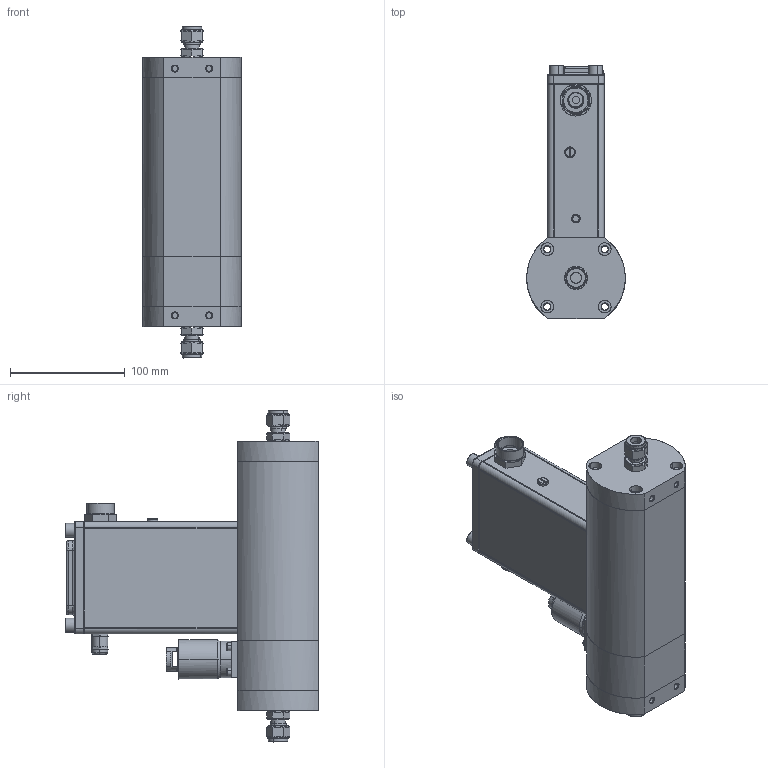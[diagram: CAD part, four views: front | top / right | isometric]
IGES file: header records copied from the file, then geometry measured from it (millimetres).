
Start section: SolidWorks IGES file using analytic representation for surfaces
Global section: file name: G:\Engineering\CAD MODELS FOR SALES\CAD MODEL STORAGE\SLA\SLAMF53\Customer Files\IGES\SLAMF53-S-2C-2-K-REVB.IGS; native system: SolidWorks 2019; preprocessor: SolidWorks 2019; author: CFehr; date: 191218.143711; units: inch
Bounding box: 86 x 220.78 x 289.76 mm (x, y, z)
Surface area: 152938.7 mm2 (no closed solid volume)
Topology: 0 solids, 0 shells, 430 faces, 7066 edges, 7063 vertices
Faces by surface type: revolution 216, bspline 214
